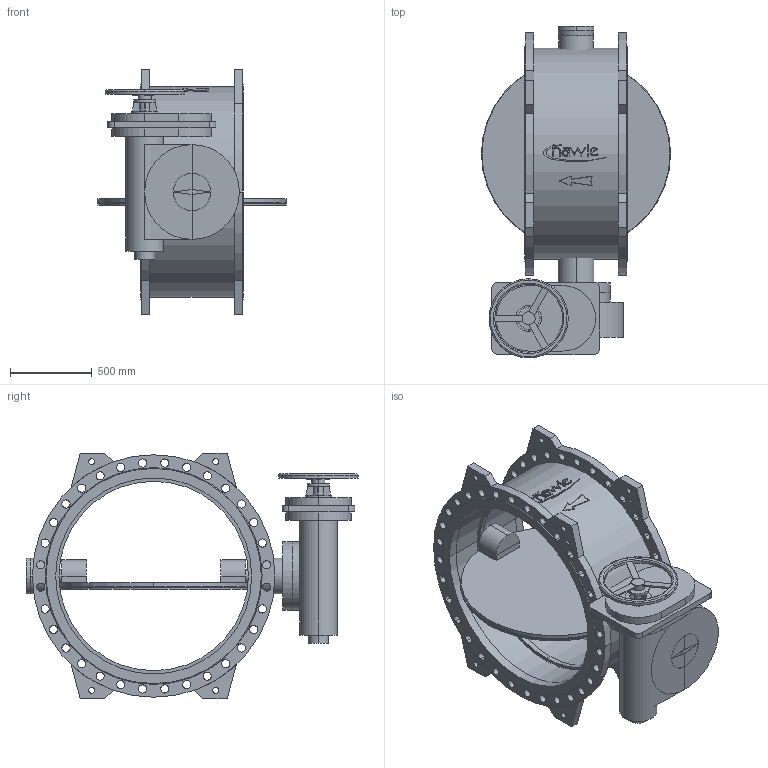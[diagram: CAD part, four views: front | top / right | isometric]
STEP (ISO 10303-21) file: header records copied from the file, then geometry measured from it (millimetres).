
FILE_DESCRIPTION(('STEP AP214'),'1');
FILE_NAME('S:/EK/USER/CAT6/3DHomepage_27-04-2012/neu_08-01-2013/9881K/9881K_PN16_DN1200_7800.STP','2013-03-11T16:04:26',(' '),(' '),'Spatial InterOp 3D',' ',' ');
FILE_SCHEMA(('automotive_design'));
Length unit declared in the file: millimetre
Products named in the file (52): 3D-Objekt
Bounding box: 1158 x 2033 x 1506 mm (x, y, z)
Volume: 397415877.7 mm3; surface area: 17514008 mm2
Topology: 52 solids, 52 shells, 507 faces, 1202 edges, 802 vertices
Faces by surface type: cylinder 265, plane 232, cone 6, torus 4
Entity records: 20442 total; most frequent: DIRECTION 2892, CARTESIAN_POINT 2563, ORIENTED_EDGE 2404, EDGE_CURVE 1202, AXIS2_PLACEMENT_3D 1131, VERTEX_POINT 802, EDGE_LOOP 672, LINE 630
